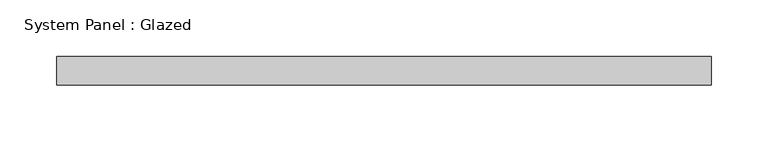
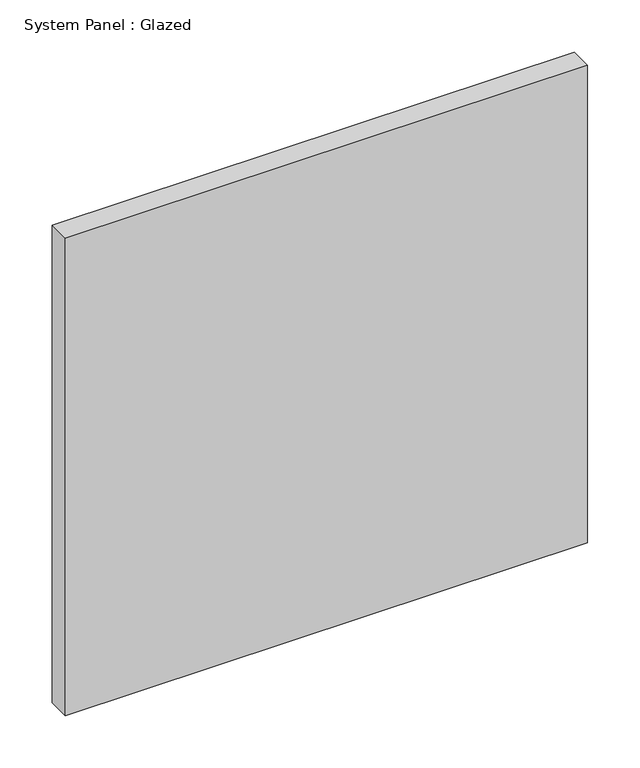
"""IFC4 building model written with IfcOpenShell, lengths in millimetres: plate geometry, System Panel : Glazed."""

import ifcopenshell
import ifcopenshell.guid

model = None  # the IFC model being written
_history = None  # IfcOwnerHistory: only IFC2X3 demands one
_inside = {}  # id of a spatial element -> (the spatial element, [elements in it])
_under = {}  # id of a project, library or spatial element -> (it, [spatial elements below it])
_declared = {}  # id of a project -> (the project, [libraries it declares])
_typed = {}  # id of a type object -> (the type object, [elements of that type])
_made_of = {}  # id of a material, layer set ... -> (it, [elements and type objects made of it])


def new_model(schema):
    """Start an empty IFC model of exactly this schema.

    Asked for "IFC4X3", IfcOpenShell would pick the latest addendum, in which some entities
    have other attributes; the version numbers below select the first issue.
    IFC2X3 requires an IfcOwnerHistory on every rooted entity: one is made here for all.
    """
    global model, _history
    if schema == "IFC4X3":
        model = ifcopenshell.file(schema_version=(4, 3, 0, 0))
    else:
        model = ifcopenshell.file(schema=schema)
    _inside.clear()
    _under.clear()
    _declared.clear()
    _typed.clear()
    _made_of.clear()
    _history = None
    if model.schema == "IFC2X3":
        org = make("IfcOrganization", Name="unknown")
        user = make(
            "IfcPersonAndOrganization",
            ThePerson=make("IfcPerson", FamilyName="unknown"),
            TheOrganization=org,
        )
        app = make(
            "IfcApplication",
            ApplicationDeveloper=org,
            Version="unknown",
            ApplicationFullName="unknown",
            ApplicationIdentifier="unknown",
        )
        _history = make(
            "IfcOwnerHistory",
            OwningUser=user,
            OwningApplication=app,
            ChangeAction="ADDED",
            CreationDate=0,
        )
    return model


def make(cls, **values):
    """One entity of the class cls with the attributes given. An attribute that is None is left unset."""
    return model.create_entity(
        cls, **{name: value for name, value in values.items() if value is not None}
    )


def rooted(cls, **values):
    """An entity with a GlobalId (a new one), such as an element, a storey or a relation."""
    return make(cls, GlobalId=ifcopenshell.guid.new(), OwnerHistory=_history, **values)


def si_unit(unit_type, name, prefix=None):
    """IfcSIUnit, for example si_unit("LENGTHUNIT", "METRE", prefix="MILLI")."""
    return make("IfcSIUnit", UnitType=unit_type, Prefix=prefix, Name=name)


def assignment(units):
    """IfcUnitAssignment: the units of a project."""
    return None if units is None else make("IfcUnitAssignment", Units=units)


def point(xyz):
    """IfcCartesianPoint."""
    return None if xyz is None else make("IfcCartesianPoint", Coordinates=xyz)


def direction(xyz):
    """IfcDirection."""
    return None if xyz is None else make("IfcDirection", DirectionRatios=xyz)


def frame(location, z_axis=None, x_axis=None):
    """IfcAxis2Placement3D, a coordinate frame: its origin and axes. An axis left out is left unset."""
    return make(
        "IfcAxis2Placement3D",
        Location=point(location),
        Axis=direction(z_axis),
        RefDirection=direction(x_axis),
    )


def origin():
    """The frame at (0, 0, 0) with its axes left unset."""
    return frame((0.0, 0.0, 0.0))


def origin_with_axes():
    """The frame at (0, 0, 0) with the z axis (0, 0, 1) and the x axis (1, 0, 0) written out."""
    return frame((0.0, 0.0, 0.0), z_axis=(0.0, 0.0, 1.0), x_axis=(1.0, 0.0, 0.0))


def place(relative_to, where):
    """IfcLocalPlacement: puts the frame where relative to a parent placement (None: the world)."""
    return make(
        "IfcLocalPlacement", PlacementRelTo=relative_to, RelativePlacement=where
    )


def context(
    kind, dimensions, precision=None, world=None, true_north=None, identifier=None
):
    """IfcGeometricRepresentationContext, for example the 3D "Model" context."""
    return make(
        "IfcGeometricRepresentationContext",
        ContextIdentifier=identifier,
        ContextType=kind,
        CoordinateSpaceDimension=dimensions,
        Precision=precision,
        WorldCoordinateSystem=world,
        TrueNorth=true_north,
    )


def project(units=None, contexts=None):
    """IfcProject with its units and contexts."""
    return rooted(
        "IfcProject",
        Name="project",
        RepresentationContexts=contexts,
        UnitsInContext=assignment(units),
    )


def spatial(cls, under=None, at=None, **own):
    """A site, building, storey or space (cls), placed at a placement, below another one or the project."""
    s = rooted(cls, ObjectPlacement=at, **own)
    if under is not None:
        _under.setdefault(under.id(), (under, []))[1].append(s)
    return s


def polyline(points):
    """IfcPolyline through the points."""
    return make("IfcPolyline", Points=[point(p) for p in points])


def outline(outer, holes=None, kind="AREA"):
    """IfcArbitraryClosedProfileDef: a profile drawn as a closed curve; with holes, ...WithVoids."""
    if holes is None:
        return make("IfcArbitraryClosedProfileDef", ProfileType=kind, OuterCurve=outer)
    return make(
        "IfcArbitraryProfileDefWithVoids",
        ProfileType=kind,
        OuterCurve=outer,
        InnerCurves=holes,
    )


def extrude(swept, where, along, depth):
    """IfcExtrudedAreaSolid: the profile swept, set in the frame where, extruded along a direction by depth."""
    return make(
        "IfcExtrudedAreaSolid",
        SweptArea=swept,
        Position=where,
        ExtrudedDirection=direction(along),
        Depth=depth,
    )


def shape(context_of_items, identifier, shape_type, items):
    """IfcShapeRepresentation: the items that make up one representation, for example the "Body"."""
    return make(
        "IfcShapeRepresentation",
        ContextOfItems=context_of_items,
        RepresentationIdentifier=identifier,
        RepresentationType=shape_type,
        Items=items,
    )


def source(mapping_origin, context_of_items, identifier, shape_type, items):
    """IfcRepresentationMap: a shape defined once, which mapped items show again and again."""
    return make(
        "IfcRepresentationMap",
        MappingOrigin=mapping_origin,
        MappedRepresentation=shape(context_of_items, identifier, shape_type, items),
    )


def transform(
    local_origin,
    x_axis=None,
    y_axis=None,
    z_axis=None,
    scale=None,
    scale2=None,
    scale3=None,
    uniform=True,
):
    """IfcCartesianTransformationOperator3D, or its non-uniform kind. x_axis, y_axis, z_axis: its Axis1, 2, 3."""
    if uniform:
        return make(
            "IfcCartesianTransformationOperator3D",
            Axis1=direction(x_axis),
            Axis2=direction(y_axis),
            LocalOrigin=point(local_origin),
            Scale=scale,
            Axis3=direction(z_axis),
        )
    return make(
        "IfcCartesianTransformationOperator3DnonUniform",
        Axis1=direction(x_axis),
        Axis2=direction(y_axis),
        LocalOrigin=point(local_origin),
        Scale=scale,
        Axis3=direction(z_axis),
        Scale2=scale2,
        Scale3=scale3,
    )


def mapped(mapping_source, mapping_target):
    """IfcMappedItem: shows the shape of a source again, moved by a transform."""
    return make(
        "IfcMappedItem", MappingSource=mapping_source, MappingTarget=mapping_target
    )


def made_of(thing, what):
    """Note that an element or type object is made of a material, layer set ...; save() writes the relation."""
    if what is not None:
        _made_of.setdefault(what.id(), (what, []))[1].append(thing)
    return thing


def element(
    cls,
    number,
    at=None,
    inside=None,
    cuts=None,
    type_object=None,
    material=None,
    context=None,
    identifier="Body",
    shape_type=None,
    held_by="IfcProductDefinitionShape",
    body=None,
    shapes=None,
    **own,
):
    """One element of the class cls, such as IfcWall. Its Tag is "e" and its number.

    at: its placement. inside: the storey or other place that contains it. cuts: it is an
    opening in that element (IfcRelVoidsElement). A single representation is given by context,
    identifier, shape_type and body (its items); several are given by shapes. held_by: the class
    of the entity that holds the representations. save() writes the other relations.
    """
    e = rooted(cls, Tag="e%d" % number, ObjectPlacement=at, **own)
    if body is not None:
        shapes = [shape(context, identifier, shape_type, body)]
    if shapes is not None:
        e.Representation = make(held_by, Representations=shapes)
    if inside is not None:
        _inside.setdefault(inside.id(), (inside, []))[1].append(e)
    if cuts is not None:
        rooted(
            "IfcRelVoidsElement", RelatingBuildingElement=cuts, RelatedOpeningElement=e
        )
    if type_object is not None:
        _typed.setdefault(type_object.id(), (type_object, []))[1].append(e)
    return made_of(e, material)


def aggregate(whole, parts):
    """IfcRelAggregates: a whole, such as a stair, and the parts it consists of."""
    return rooted("IfcRelAggregates", RelatingObject=whole, RelatedObjects=parts)


def save(model, path):
    """Write the relations noted so far, then the file.

    IfcRelAggregates (storeys below a building ...), IfcRelContainedInSpatialStructure (elements
    in a storey), IfcRelDefinesByType, IfcRelAssociatesMaterial and IfcRelDeclares: one each for
    every whole, place, type object, material and project.
    """
    for whole, parts in _under.values():
        aggregate(whole, parts)
    for where, things in _inside.values():
        rooted(
            "IfcRelContainedInSpatialStructure",
            RelatedElements=things,
            RelatingStructure=where,
        )
    for kind, things in _typed.values():
        rooted("IfcRelDefinesByType", RelatedObjects=things, RelatingType=kind)
    for what, things in _made_of.values():
        rooted("IfcRelAssociatesMaterial", RelatedObjects=things, RelatingMaterial=what)
    for by, libraries in _declared.values():
        rooted("IfcRelDeclares", RelatingContext=by, RelatedDefinitions=libraries)
    model.write(path)


def system_panel_glazed_f7690e00(model_context):
    return source(origin(), model_context, "Body", "SweptSolid", [
        extrude(outline(polyline([(289.2505323, -12.7), (-289.2505323, -12.7), (-289.2505323, 12.7), (289.2505323, 12.7), (289.2505323, -12.7)])), origin_with_axes(), (0.0, 0.0, 1.0), 558.8),
    ])


if __name__ == "__main__":
    model = new_model("IFC4")
    model_context = context("Model", 3, world=origin())
    ifc_project = project(units=[si_unit("LENGTHUNIT", "METRE", prefix="MILLI")], contexts=[model_context])
    site = spatial("IfcSite", under=ifc_project)
    building = spatial("IfcBuilding", under=site)
    placement = place(None, origin())
    system_panel_glazed_shape = system_panel_glazed_f7690e00(model_context)
    element("IfcPlate", 1, ObjectType="System Panel : Glazed", at=placement, inside=building, context=model_context, shape_type="MappedRepresentation", body=[
        mapped(system_panel_glazed_shape, transform((0.0, 0.0, 0.0), x_axis=(1.0, 0.0, 0.0), y_axis=(0.0, 1.0, 0.0), z_axis=(0.0, 0.0, 1.0))),
    ])
    save(model, "model.ifc")
